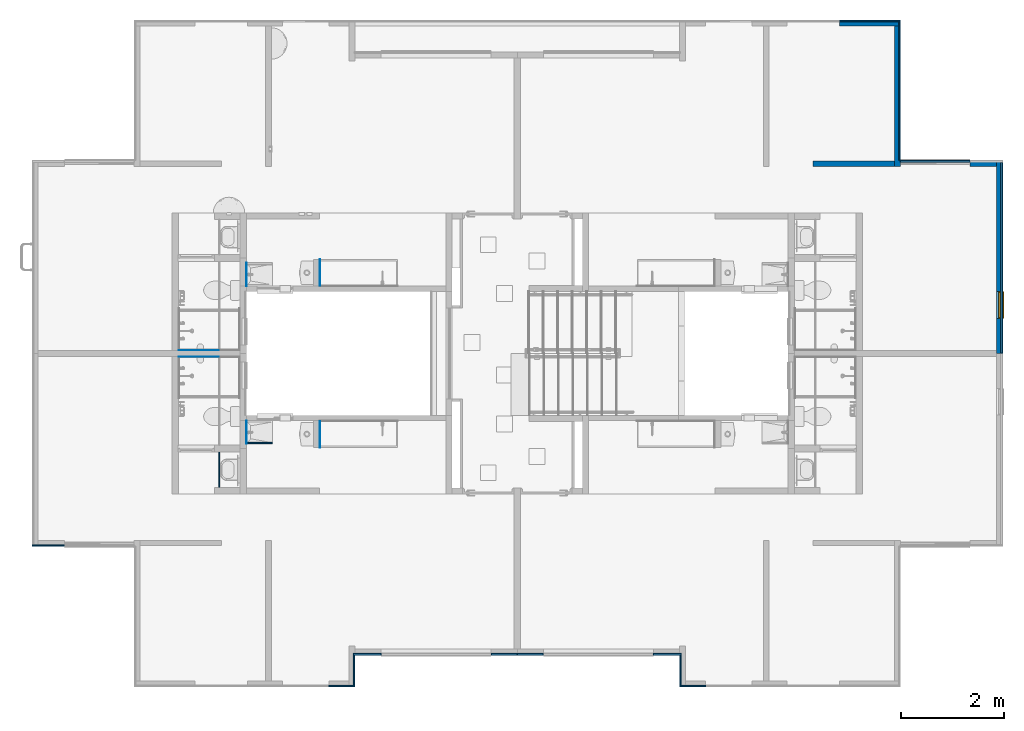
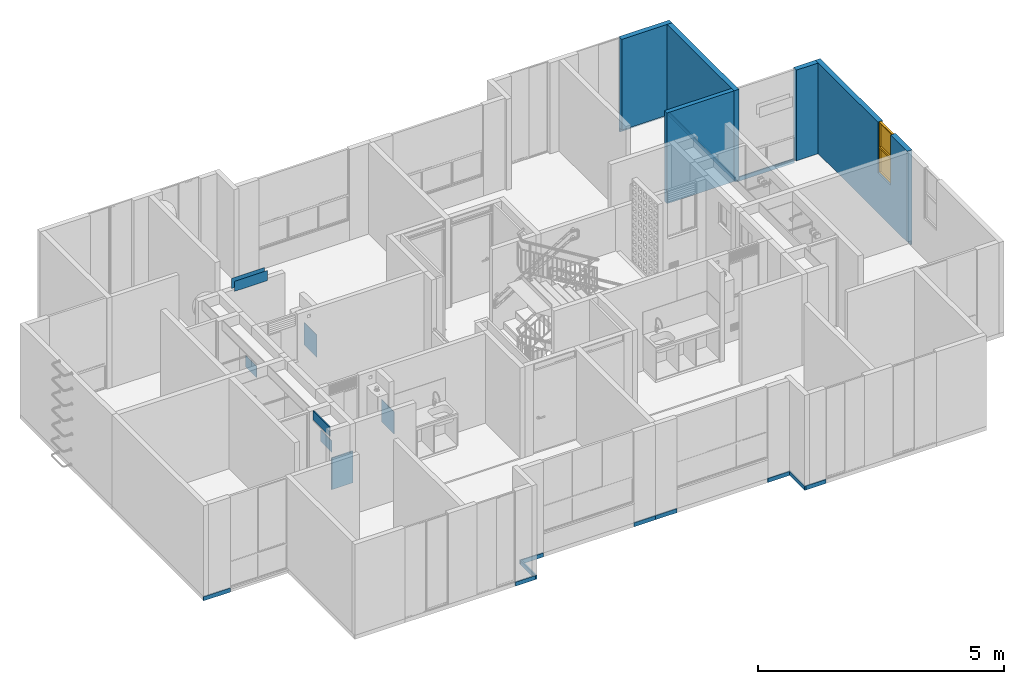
# One storey, part 28 of 51: 26 walls, 1 window, 1 opening.
"""IFC4 building model written with IfcOpenShell, lengths in metres."""

from ifc_helpers import new_model, entity, si_unit, converted_unit, derived_unit, direction, frame, origin, place, context, subcontext, project, spatial, indexed_curve, outline, extrude, polygons, source, transform, mapped, material, constituent, constituent_set, type_object, type_shapes, element, fill, save


model = new_model("IFC4")

# Units and contexts
model_context = context("Model", 3, precision=1e-05, world=origin(), true_north=direction((6.123031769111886e-17, 1.0)))
body_context = subcontext(model_context, "Body", "Model", "MODEL_VIEW")
ifc_project = project(units=[si_unit("LENGTHUNIT", "METRE"), si_unit("AREAUNIT", "SQUARE_METRE"), si_unit("VOLUMEUNIT", "CUBIC_METRE"), converted_unit("PLANEANGLEUNIT", "DEGREE", entity("IfcRatioMeasure", 0.017453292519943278), si_unit("PLANEANGLEUNIT", "RADIAN"), dimensions=[0, 0, 0, 0, 0, 0, 0]), si_unit("MASSUNIT", "GRAM", prefix="KILO"), derived_unit("MASSDENSITYUNIT", [(si_unit("MASSUNIT", "GRAM", prefix="KILO"), 1), (si_unit("LENGTHUNIT", "METRE"), -3)]), derived_unit("IONCONCENTRATIONUNIT", [(si_unit("MASSUNIT", "GRAM", prefix="KILO"), 1), (si_unit("LENGTHUNIT", "METRE"), -3)]), derived_unit("MOMENTOFINERTIAUNIT", [(si_unit("LENGTHUNIT", "METRE"), 4)]), si_unit("TIMEUNIT", "SECOND"), si_unit("FREQUENCYUNIT", "HERTZ"), si_unit("THERMODYNAMICTEMPERATUREUNIT", "DEGREE_CELSIUS"), derived_unit("THERMALTRANSMITTANCEUNIT", [(si_unit("MASSUNIT", "GRAM", prefix="KILO"), 1), (si_unit("THERMODYNAMICTEMPERATUREUNIT", "KELVIN"), -1), (si_unit("TIMEUNIT", "SECOND"), -3)]), derived_unit("THERMALCONDUCTANCEUNIT", [(si_unit("MASSUNIT", "GRAM", prefix="KILO"), 1), (si_unit("THERMODYNAMICTEMPERATUREUNIT", "KELVIN"), -1), (si_unit("TIMEUNIT", "SECOND"), -3), (si_unit("LENGTHUNIT", "METRE"), 1)]), derived_unit("VOLUMETRICFLOWRATEUNIT", [(si_unit("LENGTHUNIT", "METRE"), 3), (si_unit("TIMEUNIT", "SECOND"), -1)]), derived_unit("MASSFLOWRATEUNIT", [(si_unit("MASSUNIT", "GRAM", prefix="KILO"), 1), (si_unit("TIMEUNIT", "SECOND"), -1)]), derived_unit("ROTATIONALFREQUENCYUNIT", [(si_unit("TIMEUNIT", "SECOND"), -1)]), si_unit("ELECTRICCURRENTUNIT", "AMPERE"), si_unit("ELECTRICVOLTAGEUNIT", "VOLT"), si_unit("POWERUNIT", "WATT"), si_unit("FORCEUNIT", "NEWTON", prefix="KILO"), si_unit("ILLUMINANCEUNIT", "LUX"), si_unit("LUMINOUSFLUXUNIT", "LUMEN"), si_unit("LUMINOUSINTENSITYUNIT", "CANDELA"), derived_unit("USERDEFINED", [(si_unit("MASSUNIT", "GRAM", prefix="KILO"), -1), (si_unit("LENGTHUNIT", "METRE"), -2), (si_unit("TIMEUNIT", "SECOND"), 3), (si_unit("LUMINOUSFLUXUNIT", "LUMEN"), 1)]), derived_unit("USERDEFINED", [(si_unit("MASSUNIT", "GRAM", prefix="KILO"), 1), (si_unit("TIMEUNIT", "SECOND"), -3), (si_unit("LENGTHUNIT", "METRE"), 3), (si_unit("ELECTRICCURRENTUNIT", "AMPERE"), -2)]), derived_unit("SOUNDPOWERUNIT", [(si_unit("MASSUNIT", "GRAM", prefix="KILO"), 1), (si_unit("TIMEUNIT", "SECOND"), -3), (si_unit("LENGTHUNIT", "METRE"), 2)]), derived_unit("SOUNDPRESSUREUNIT", [(si_unit("MASSUNIT", "GRAM", prefix="KILO"), 1), (si_unit("LENGTHUNIT", "METRE"), -1), (si_unit("TIMEUNIT", "SECOND"), -2)]), derived_unit("LINEARVELOCITYUNIT", [(si_unit("LENGTHUNIT", "METRE"), 1), (si_unit("TIMEUNIT", "SECOND"), -1)]), si_unit("PRESSUREUNIT", "PASCAL"), derived_unit("USERDEFINED", [(si_unit("MASSUNIT", "GRAM", prefix="KILO"), 1), (si_unit("LENGTHUNIT", "METRE"), -2), (si_unit("TIMEUNIT", "SECOND"), -2)]), derived_unit("LINEARFORCEUNIT", [(si_unit("MASSUNIT", "GRAM", prefix="KILO"), 1), (si_unit("TIMEUNIT", "SECOND"), -2)]), derived_unit("PLANARFORCEUNIT", [(si_unit("MASSUNIT", "GRAM", prefix="KILO"), 1), (si_unit("LENGTHUNIT", "METRE"), -1), (si_unit("TIMEUNIT", "SECOND"), -2)]), derived_unit("SPECIFICHEATCAPACITYUNIT", [(si_unit("THERMODYNAMICTEMPERATUREUNIT", "KELVIN"), -1), (si_unit("LENGTHUNIT", "METRE"), 2), (si_unit("TIMEUNIT", "SECOND"), -2)]), derived_unit("HEATINGVALUEUNIT", [(si_unit("LENGTHUNIT", "METRE"), 2), (si_unit("TIMEUNIT", "SECOND"), -2)]), derived_unit("VAPORPERMEABILITYUNIT", [(si_unit("LENGTHUNIT", "METRE"), -1), (si_unit("TIMEUNIT", "SECOND"), 1)]), derived_unit("DYNAMICVISCOSITYUNIT", [(si_unit("MASSUNIT", "GRAM", prefix="KILO"), 1), (si_unit("TIMEUNIT", "SECOND"), -1), (si_unit("LENGTHUNIT", "METRE"), -1)]), derived_unit("THERMALEXPANSIONCOEFFICIENTUNIT", [(si_unit("THERMODYNAMICTEMPERATUREUNIT", "KELVIN"), -1)]), derived_unit("MODULUSOFELASTICITYUNIT", [(si_unit("MASSUNIT", "GRAM", prefix="KILO"), 1), (si_unit("LENGTHUNIT", "METRE"), -1), (si_unit("TIMEUNIT", "SECOND"), -2)]), derived_unit("ISOTHERMALMOISTURECAPACITYUNIT", [(si_unit("LENGTHUNIT", "METRE"), 3), (si_unit("MASSUNIT", "GRAM", prefix="KILO"), -1)]), derived_unit("MOISTUREDIFFUSIVITYUNIT", [(si_unit("TIMEUNIT", "SECOND"), -1), (si_unit("LENGTHUNIT", "METRE"), 2)])], contexts=[model_context])

# Site, building, storey
site_placement = place(None, origin())
site = spatial("IfcSite", under=ifc_project, at=site_placement, Name="Default", CompositionType="ELEMENT")
building_placement = place(site_placement, origin())
building = spatial("IfcBuilding", under=site, at=building_placement, CompositionType="ELEMENT")
storey_placement = place(building_placement, frame((0.0, 0.0, 2.350000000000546)))
storey = spatial("IfcBuildingStorey", under=building, at=storey_placement, Name="Nivel 2", CompositionType="ELEMENT", Elevation=2.350000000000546)

# Wall, opening, window
ifc_material_1 = material(Name="Ladrillo claro (Aire)", Category="Materials")
wall_type_1 = type_object("IfcWallType", Name="Basic Wall:B2010 - 0.115m - Muro exterior en mampostería - Ladrillo", PredefinedType="STANDARD")
wall_1_placement = place(storey_placement, frame((18.64500000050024, -2.695000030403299, 0.0), z_axis=(0.0, 0.0, 1.0), x_axis=(0.0, -1.0, 0.0)))
wall_1 = element("IfcWall", 1, at=wall_1_placement, inside=storey, type_object=wall_type_1, material=ifc_material_1, Name="Basic Wall:B2010 - 0.115m - Muro exterior en mampostería - Ladrillo", ObjectType="Basic Wall:B2010 - 0.115m - Muro exterior en mampostería - Ladrillo", PredefinedType="NOTDEFINED", context=body_context, shape_type="Tessellation", body=[
    polygons([(3.729999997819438, -0.05750000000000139, 2.2500000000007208), (3.056249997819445, -0.05749999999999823, 2.249999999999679), (3.056249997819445, -0.05749999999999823, 0.9999999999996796), (2.536249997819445, -0.057500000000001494, 0.9999999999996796), (2.536249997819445, -0.057500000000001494, 2.2500000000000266), (5.414335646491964e-16, -0.05749999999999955, 2.2500000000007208), (5.414335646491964e-16, -0.05749999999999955, 2.707167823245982e-16), (3.729999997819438, -0.05750000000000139, 2.707167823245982e-16), (3.0562499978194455, 0.05750000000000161, 0.9999999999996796), (3.0562499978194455, 0.05750000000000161, 2.249999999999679), (3.7299999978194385, 0.05750000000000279, 2.2500000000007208), (3.7299999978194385, 0.05750000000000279, 2.707167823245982e-16), (5.414335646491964e-16, 0.057500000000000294, 2.707167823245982e-16), (5.414335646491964e-16, 0.057500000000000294, 2.2500000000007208), (2.5362499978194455, 0.05750000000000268, 2.2500000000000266), (2.5362499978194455, 0.05750000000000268, 0.9999999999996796)], [[[1, 2, 3, 4, 5, 6, 7, 8]], [[9, 10, 11, 12, 13, 14, 15, 16]], [[8, 7, 13, 12]], [[1, 8, 12, 11]], [[11, 10, 2, 1]], [[7, 6, 14, 13]], [[5, 4, 16, 15]], [[3, 2, 10, 9]], [[4, 3, 9, 16]], [[15, 14, 6, 5]]], closed=True),
])
opening_placement = place(wall_1_placement, frame((2.5362499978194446, -0.057500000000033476, 1.0)))
opening = element("IfcOpeningElement", 2, at=opening_placement, cuts=wall_1, Name="B2020 - Ventana batiente - Aluminio + Vidrio:B2020 -0.52m x 1.1.25m - Ventana batiente 2C - Aluminio + Vidrio:1", PredefinedType="OPENING", context=body_context, shape_type="SweptSolid", body=[
    extrude(outline(indexed_curve([(0.0, -1.3535839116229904e-16), (1.2499999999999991, -1.3535839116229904e-16), (1.2499999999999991, 0.5199999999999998), (0.0, 0.5199999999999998), (0.0, -1.3535839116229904e-16)], self_intersect=False)), frame((0.0, 0.0, 0.0), z_axis=(0.0, 1.0, 0.0), x_axis=(0.0, 0.0, 1.0)), (0.0, 0.0, 1.0), 0.115),
])
ifc_material_2 = material(Name="Vidrio", Category="Materials")
ifc_constituent_1 = constituent(ifc_material_2, Name="Vidrio", Category="Materials")
ifc_material_3 = material(Name="Aluminio", Category="Materials")
ifc_constituent_2 = constituent(ifc_material_3, Name="Aluminio", Category="Materials")
ifc_material_4 = material(Name="<Unnamed>")
ifc_constituent_3 = constituent(ifc_material_4, Name="<Unnamed>")
ifc_constituent_set_1 = constituent_set(constituents=[ifc_constituent_1, ifc_constituent_2, ifc_constituent_3])
ifc_constituent_4 = constituent(ifc_material_2, Name="Vidrio", Category="Materials")
ifc_constituent_5 = constituent(ifc_material_3, Name="Aluminio", Category="Materials")
ifc_constituent_6 = constituent(ifc_material_4, Name="<Unnamed>")
ifc_constituent_set_2 = constituent_set(constituents=[ifc_constituent_4, ifc_constituent_5, ifc_constituent_6])
window_type = type_object("IfcWindowType", Name="B2020 - Ventana batiente - Aluminio + Vidrio:B2020 -0.52m x 1.1.25m - Ventana batiente 2C - Aluminio + Vidrio", PartitioningType="NOTDEFINED", PredefinedType="WINDOW", material=ifc_constituent_set_2)
shared_shape = source(origin(), body_context, "Body", "SweptSolid", [
    extrude(outline(indexed_curve([(-0.0020000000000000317, -0.2400000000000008), (0.0019999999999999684, -0.2400000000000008), (0.0020000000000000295, 0.2400000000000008), (-0.0019999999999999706, 0.2400000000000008), (-0.0020000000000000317, -0.2400000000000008)], self_intersect=False)), frame((0.26000000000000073, 0.07013901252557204, 0.01999999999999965), z_axis=(0.0, 0.0, 1.0), x_axis=(0.0, -1.0, 0.0)), (0.0, 0.0, 1.0), 0.585),
    extrude(outline(indexed_curve([(-0.3124999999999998, -0.2599999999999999), (0.3124999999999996, -0.2599999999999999), (0.3124999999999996, 0.2599999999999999), (-0.3124999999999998, 0.2599999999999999), (-0.3124999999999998, -0.2599999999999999)], self_intersect=False), holes=[indexed_curve([(0.2924999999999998, -0.24000000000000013), (-0.2925, -0.24000000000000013), (-0.2925, 0.24000000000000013), (0.2924999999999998, 0.24000000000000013), (0.2924999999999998, -0.24000000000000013)], self_intersect=False)]), frame((0.26000000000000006, 0.032499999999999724, 0.3124999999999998), z_axis=(0.0, 1.0, 0.0), x_axis=(0.0, 0.0, 1.0)), (0.0, 0.0, 1.0), 0.05),
    extrude(outline(indexed_curve([(-0.0020000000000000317, -0.2400000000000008), (0.0019999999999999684, -0.2400000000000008), (0.0020000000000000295, 0.2400000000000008), (-0.0019999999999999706, 0.2400000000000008), (-0.0020000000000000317, -0.2400000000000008)], self_intersect=False)), frame((0.25999999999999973, 0.07013901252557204, 0.6449999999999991), z_axis=(0.0, 0.0, 1.0), x_axis=(0.0, -1.0, 0.0)), (0.0, 0.0, 1.0), 0.585),
    extrude(outline(indexed_curve([(-0.3124999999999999, -0.2599999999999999), (0.3124999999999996, -0.2599999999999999), (0.3124999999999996, 0.25999999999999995), (-0.3124999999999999, 0.2599999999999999), (-0.3124999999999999, -0.2599999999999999)], self_intersect=False), holes=[indexed_curve([(0.2924999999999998, -0.24000000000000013), (-0.2925000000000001, -0.24000000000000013), (-0.2925000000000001, 0.24000000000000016), (0.2924999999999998, 0.24000000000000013), (0.2924999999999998, -0.24000000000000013)], self_intersect=False)]), frame((0.259999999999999, 0.032499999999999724, 0.9374999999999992), z_axis=(0.0, 1.0, 0.0), x_axis=(0.0, 0.0, 1.0)), (0.0, 0.0, 1.0), 0.05),
    extrude(outline(indexed_curve([(2.1899534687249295e-05, 0.0030283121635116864), (0.03002189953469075, 0.0030283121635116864), (0.030021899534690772, 0.008028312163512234), (-0.0013178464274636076, 0.00802831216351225), (-0.030623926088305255, -0.008891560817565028), (-0.02812392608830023, -0.013221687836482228), (2.1899534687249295e-05, 0.0030283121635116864)], self_intersect=False)), frame((0.0, 0.11346687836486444, -0.002611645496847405), z_axis=(1.0, 0.0, 0.0), x_axis=(0.0, 0.8660254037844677, -0.4999999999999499)), (0.0, 0.0, 1.0), 0.520000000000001),
])
type_shapes(window_type, [shared_shape])
window_placement = place(opening_placement, origin())
window = element("IfcWindow", 3, at=window_placement, inside=storey, type_object=window_type, material=ifc_constituent_set_1, Name="B2020 - Ventana batiente - Aluminio + Vidrio:B2020 -0.52m x 1.1.25m - Ventana batiente 2C - Aluminio + Vidrio", ObjectType="B2020 - Ventana batiente - Aluminio + Vidrio:B2020 -0.52m x 1.1.25m - Ventana batiente 2C - Aluminio + Vidrio", OverallHeight=1.2499999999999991, OverallWidth=0.5199999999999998, PartitioningType="NOTDEFINED", PredefinedType="WINDOW", context=body_context, shape_type="MappedRepresentation", body=[
    mapped(shared_shape, transform((0.0, 0.0, 0.0), scale=1.0)),
])
fill(opening, window)

# Walls
wall_2_placement = place(storey_placement, frame((16.670000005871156, -2.8100000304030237, 0.0), z_axis=(0.0, 0.0, 1.0), x_axis=(0.0, 1.0, 0.0)))
element("IfcWall", 4, at=wall_2_placement, inside=storey, type_object=wall_type_1, material=ifc_material_1, Name="Basic Wall:B2010 - 0.115m - Muro exterior en mampostería - Ladrillo", ObjectType="Basic Wall:B2010 - 0.115m - Muro exterior en mampostería - Ladrillo", PredefinedType="NOTDEFINED", context=body_context, shape_type="SweptSolid", body=[
    extrude(outline(indexed_curve([(2.7150000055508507, 0.057499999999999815), (1.0301981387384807e-16, 0.057499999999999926), (-1.0301981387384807e-16, -0.057499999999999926), (2.7150000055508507, -0.05750000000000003), (2.7150000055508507, 0.057499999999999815)], self_intersect=False)), origin(), (0.0, 0.0, 1.0), 2.2500000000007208),
])
ifc_material_5 = material(Name="LADRILLO CLARO", Category="Materials")
wall_type_2 = type_object("IfcWallType", Name="Basic Wall:B2010 - 0.115m - ME mampostería no estructural - Ladrillo", PredefinedType="STANDARD")
wall_3_placement = place(storey_placement, frame((18.58750000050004, -2.7525000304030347, 0.0), z_axis=(0.0, 0.0, 1.0), x_axis=(-1.0, 0.0, 0.0)))
element("IfcWall", 5, at=wall_3_placement, inside=storey, type_object=wall_type_2, material=ifc_material_5, Name="Basic Wall:B2010 - 0.115m - ME mampostería no estructural - Ladrillo", ObjectType="Basic Wall:B2010 - 0.115m - ME mampostería no estructural - Ladrillo", PredefinedType="NOTDEFINED", context=body_context, shape_type="SweptSolid", body=[
    extrude(outline(indexed_curve([(0.5099999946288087, 0.05749999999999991), (-1.8225877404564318e-16, 0.057499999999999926), (1.8225877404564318e-16, -0.057499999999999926), (0.5099999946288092, -0.05749999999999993), (0.5099999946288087, 0.05749999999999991)], self_intersect=False)), origin(), (0.0, 0.0, 1.0), 2.2500000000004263),
])
wall_4_placement = place(storey_placement, frame((15.553300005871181, -0.037500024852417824, 0.0)))
element("IfcWall", 6, at=wall_4_placement, inside=storey, type_object=wall_type_2, material=ifc_material_5, Name="Basic Wall:B2010 - 0.115m - ME mampostería no estructural - Ladrillo", ObjectType="Basic Wall:B2010 - 0.115m - ME mampostería no estructural - Ladrillo", PredefinedType="NOTDEFINED", context=body_context, shape_type="SweptSolid", body=[
    extrude(outline(indexed_curve([(1.174199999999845, 0.05749999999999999), (-6.892764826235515e-16, 0.0575), (6.892764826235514e-16, -0.05749999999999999), (1.1741999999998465, -0.05749999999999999), (1.174199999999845, 0.05749999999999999)], self_intersect=False)), origin(), (0.0, 0.0, 1.0), 2.2500000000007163),
])
ifc_material_6 = material(Name="Concreto (Aire)", Category="Materials")
wall_type_3 = type_object("IfcWallType", Name="Basic Wall:B2010 - 0.10m - Muro interior en concreto", PredefinedType="STANDARD")
wall_5_placement = place(storey_placement, frame((16.612500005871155, -2.7600000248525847, 0.0), z_axis=(0.0, 0.0, 1.0), x_axis=(-1.0, 0.0, 0.0)))
element("IfcWall", 7, at=wall_5_placement, inside=storey, type_object=wall_type_3, material=ifc_material_6, Name="Basic Wall:B2010 - 0.10m - Muro interior en concreto", ObjectType="Basic Wall:B2010 - 0.10m - Muro interior en concreto", PredefinedType="NOTDEFINED", context=body_context, shape_type="SweptSolid", body=[
    extrude(outline(indexed_curve([(1.569999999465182, 0.050000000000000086), (-1.0889063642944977e-15, 0.05), (-3.2425621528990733e-15, -0.05), (1.5699999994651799, -0.04999999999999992), (1.569999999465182, 0.050000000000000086)], self_intersect=False)), origin(), (0.0, 0.0, 1.0), 2.2499999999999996),
])
ifc_material_7 = material(Name="Plasterboard", Category="Materials")
wall_type_4 = type_object("IfcWallType", Name="Basic Wall:C1070 - 0.02m - Plafón - Drywall", PredefinedType="STANDARD")
wall_6_placement = place(storey_placement, frame((3.5624999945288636, -8.334999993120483, 2.020000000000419), z_axis=(0.0, 0.0, 1.0), x_axis=(0.0, -1.0, 0.0)))
element("IfcWall", 8, at=wall_6_placement, inside=storey, type_object=wall_type_4, material=ifc_material_7, Name="Basic Wall:C1070 - 0.02m - Plafón - Drywall", ObjectType="Basic Wall:C1070 - 0.02m - Plafón - Drywall", PredefinedType="NOTDEFINED", context=body_context, shape_type="SweptSolid", body=[
    extrude(outline(indexed_curve([(0.6800000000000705, 0.009999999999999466), (-1.45000261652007e-16, 0.009999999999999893), (1.45000261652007e-16, -0.009999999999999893), (0.6800000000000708, -0.01000000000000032), (0.6800000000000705, 0.009999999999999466)], self_intersect=False)), origin(), (0.0, 0.0, 1.0), 0.23000000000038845),
])
ifc_material_8 = material(Name="Ceramica Salpicadero 0.28m x 0.45m", Category="Materials")
wall_type_5 = type_object("IfcWallType", Name="Basic Wall:C2010 - 0.28 x 0.45 - Salpicadero - Cerámica", PredefinedType="STANDARD")
wall_7_placement = place(storey_placement, frame((4.092499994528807, -4.67500002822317, 0.929999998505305), z_axis=(0.0, 0.0, 1.0), x_axis=(0.0, -1.0, 0.0)))
element("IfcWall", 9, at=wall_7_placement, inside=storey, type_object=wall_type_5, material=ifc_material_8, Name="Basic Wall:C2010 - 0.28 x 0.45 - Salpicadero - Cerámica", ObjectType="Basic Wall:C2010 - 0.28 x 0.45 - Salpicadero - Cerámica", PredefinedType="NOTDEFINED", context=body_context, shape_type="SweptSolid", body=[
    extrude(outline(indexed_curve([(0.44949999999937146, 0.004999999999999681), (-8.738326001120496e-17, 0.004999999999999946), (8.738326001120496e-17, -0.004999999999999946), (0.4494999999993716, -0.005000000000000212), (0.44949999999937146, 0.004999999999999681)], self_intersect=False)), origin(), (0.0, 0.0, 1.0), 0.28000000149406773),
])
wall_8_placement = place(storey_placement, frame((4.092499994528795, -8.175000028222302, 0.929999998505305), z_axis=(0.0, 0.0, 1.0), x_axis=(0.0, 1.0, 0.0)))
element("IfcWall", 10, at=wall_8_placement, inside=storey, type_object=wall_type_5, material=ifc_material_8, Name="Basic Wall:C2010 - 0.28 x 0.45 - Salpicadero - Cerámica", ObjectType="Basic Wall:C2010 - 0.28 x 0.45 - Salpicadero - Cerámica", PredefinedType="NOTDEFINED", context=body_context, shape_type="SweptSolid", body=[
    extrude(outline(indexed_curve([(0.4494999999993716, 0.004999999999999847), (5.5314236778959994e-17, 0.004999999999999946), (-5.5314236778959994e-17, -0.004999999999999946), (0.44949999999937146, -0.005000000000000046), (0.4494999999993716, 0.004999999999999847)], self_intersect=False)), origin(), (0.0, 0.0, 1.0), 0.28000000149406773),
])
wall_9_placement = place(storey_placement, frame((5.507499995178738, -4.605000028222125, 0.9299999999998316), z_axis=(0.0, 0.0, 1.0), x_axis=(0.0, -1.0, 0.0)))
element("IfcWall", 11, at=wall_9_placement, inside=storey, type_object=wall_type_5, material=ifc_material_8, Name="Basic Wall:C2010 - 0.28 x 0.45 - Salpicadero - Cerámica", ObjectType="Basic Wall:C2010 - 0.28 x 0.45 - Salpicadero - Cerámica", PredefinedType="NOTDEFINED", context=body_context, shape_type="SweptSolid", body=[
    extrude(outline(indexed_curve([(0.5100000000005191, 0.005000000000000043), (-2.217940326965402e-17, 0.004999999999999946), (2.217940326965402e-17, -0.004999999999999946), (0.5100000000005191, -0.00499999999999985), (0.5100000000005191, 0.005000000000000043)], self_intersect=False)), origin(), (0.0, 0.0, 1.0), 0.5599999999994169),
])
wall_10_placement = place(storey_placement, frame((5.507499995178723, -8.245000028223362, 0.9299999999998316), z_axis=(0.0, 0.0, 1.0), x_axis=(0.0, 1.0, 0.0)))
element("IfcWall", 12, at=wall_10_placement, inside=storey, type_object=wall_type_5, material=ifc_material_8, Name="Basic Wall:C2010 - 0.28 x 0.45 - Salpicadero - Cerámica", ObjectType="Basic Wall:C2010 - 0.28 x 0.45 - Salpicadero - Cerámica", PredefinedType="NOTDEFINED", context=body_context, shape_type="SweptSolid", body=[
    extrude(outline(indexed_curve([(0.5100000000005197, 0.0049999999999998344), (-9.519164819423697e-18, 0.004999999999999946), (9.519164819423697e-18, -0.004999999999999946), (0.5100000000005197, -0.005000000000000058), (0.5100000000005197, 0.0049999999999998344)], self_intersect=False)), origin(), (0.0, 0.0, 1.0), 0.5599999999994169),
])
ifc_material_9 = material(Name="Estuco y pintura", Category="Materials")
ifc_constituent_7 = constituent(ifc_material_9, Name="Estuco y pintura", Category="Materials")
ifc_material_10 = material(Name="0 muro divisorio", Category="Materials")
ifc_constituent_8 = constituent(ifc_material_10, Name="0 muro divisorio", Category="Materials")
ifc_constituent_9 = constituent(ifc_material_9, Name="Estuco y pintura (2)", Category="Materials")
ifc_constituent_set_3 = constituent_set(constituents=[ifc_constituent_7, ifc_constituent_8, ifc_constituent_9], Name="Basic Wall:B2010 - 0.03m - Muro interior en estuco+pintura+ concreto+ estuco+ pintura")
wall_type_6 = type_object("IfcWallType", Name="Basic Wall:B2010 - 0.03m - Muro interior en estuco+pintura+ concreto+ estuco+ pintura", PredefinedType="STANDARD", material=ifc_constituent_set_3)
wall_11_placement = place(storey_placement, frame((4.087499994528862, -8.158000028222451, 0.0)))
element("IfcWall", 13, at=wall_11_placement, inside=storey, type_object=wall_type_6, material=ifc_constituent_set_3, Name="Basic Wall:B2010 - 0.03m - Muro interior en estuco+pintura+ concreto+ estuco+ pintura", ObjectType="Basic Wall:B2010 - 0.03m - Muro interior en estuco+pintura+ concreto+ estuco+ pintura", PredefinedType="NOTDEFINED", context=body_context, shape_type="SweptSolid", body=[
    extrude(outline(indexed_curve([(-0.0010000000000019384, -0.25000023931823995), (0.0009999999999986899, -0.25000023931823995), (0.0010000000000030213, 0.2500002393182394), (-0.000999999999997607, 0.2500002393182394), (-0.0010000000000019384, -0.25000023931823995)], self_intersect=False)), frame((0.2500002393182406, 0.016000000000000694, 0.0), z_axis=(0.0, 0.0, 1.0), x_axis=(0.0, -1.0, 0.0)), (0.0, 0.0, 1.0), 0.7799999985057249),
    extrude(outline(indexed_curve([(-0.0010000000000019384, -0.25000023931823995), (0.000999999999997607, -0.25000023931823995), (0.0010000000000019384, 0.2500002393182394), (-0.000999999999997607, 0.2500002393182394), (-0.0010000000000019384, -0.25000023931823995)], self_intersect=False)), frame((0.25000023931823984, -0.015999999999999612, 0.0), z_axis=(0.0, 0.0, 1.0), x_axis=(0.0, 1.0, 0.0)), (0.0, 0.0, 1.0), 0.7799999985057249),
    extrude(outline(indexed_curve([(-0.25000023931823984, -0.014999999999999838), (0.25000023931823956, -0.014999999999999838), (0.25000023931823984, 0.014999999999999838), (-0.25000023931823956, 0.014999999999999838), (-0.25000023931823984, -0.014999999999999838)], self_intersect=False)), frame((0.25000023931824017, 0.0, 0.0)), (0.0, 0.0, 1.0), 0.7799999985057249),
])
wall_type_7 = type_object("IfcWallType", Name="Basic Wall:B2010 - 0.03m - ME enchape  no estructural - Ladrillo", PredefinedType="STANDARD")
wall_12_placement = place(storey_placement, frame((9.322500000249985, -12.240000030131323, -0.10000000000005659), z_axis=(0.0, 0.0, 1.0), x_axis=(-1.0, 0.0, 0.0)))
element("IfcWall", 14, at=wall_12_placement, inside=storey, type_object=wall_type_7, material=ifc_material_5, Name="Basic Wall:B2010 - 0.03m - ME enchape  no estructural - Ladrillo", ObjectType="Basic Wall:B2010 - 0.03m - ME enchape  no estructural - Ladrillo", PredefinedType="NOTDEFINED", context=body_context, shape_type="SweptSolid", body=[
    extrude(outline(indexed_curve([(0.505, 0.015000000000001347), (5.1729321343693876e-17, 0.015000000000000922), (-5.1729321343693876e-17, -0.015000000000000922), (0.5049999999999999, -0.015000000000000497), (0.505, 0.015000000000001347)], self_intersect=False)), origin(), (0.0, 0.0, 1.0), 0.1),
])
wall_13_placement = place(storey_placement, frame((6.167499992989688, -12.255000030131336, -0.10000000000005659), z_axis=(0.0, 0.0, 1.0), x_axis=(0.0, -1.0, 0.0)))
element("IfcWall", 15, at=wall_13_placement, inside=storey, type_object=wall_type_7, material=ifc_material_5, Name="Basic Wall:B2010 - 0.03m - ME enchape  no estructural - Ladrillo", ObjectType="Basic Wall:B2010 - 0.03m - ME enchape  no estructural - Ladrillo", PredefinedType="NOTDEFINED", context=body_context, shape_type="SweptSolid", body=[
    extrude(outline(indexed_curve([(0.6150000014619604, 0.014999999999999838), (0.0, 0.014999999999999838), (0.0, -0.014999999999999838), (0.6150000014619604, -0.014999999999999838), (0.6150000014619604, 0.014999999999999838)], self_intersect=False)), origin(), (0.0, 0.0, 1.0), 0.1),
])
wall_14_placement = place(storey_placement, frame((6.152499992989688, -12.855000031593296, -0.10000000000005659), z_axis=(0.0, 0.0, 1.0), x_axis=(-1.0, 0.0, 0.0)))
element("IfcWall", 16, at=wall_14_placement, inside=storey, type_object=wall_type_7, material=ifc_material_5, Name="Basic Wall:B2010 - 0.03m - ME enchape  no estructural - Ladrillo", ObjectType="Basic Wall:B2010 - 0.03m - ME enchape  no estructural - Ladrillo", PredefinedType="NOTDEFINED", context=body_context, shape_type="SweptSolid", body=[
    extrude(outline(indexed_curve([(0.4700000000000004, 0.015000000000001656), (4.570130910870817e-17, 0.015000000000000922), (-4.570130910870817e-17, -0.015000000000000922), (0.4700000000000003, -0.015000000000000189), (0.4700000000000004, 0.015000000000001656)], self_intersect=False)), origin(), (0.0, 0.0, 1.0), 0.1),
])
wall_15_placement = place(storey_placement, frame((-0.057499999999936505, -10.140000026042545, -0.10000000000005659)))
element("IfcWall", 17, at=wall_15_placement, inside=storey, type_object=wall_type_7, material=ifc_material_5, Name="Basic Wall:B2010 - 0.03m - ME enchape  no estructural - Ladrillo", ObjectType="Basic Wall:B2010 - 0.03m - ME enchape  no estructural - Ladrillo", PredefinedType="NOTDEFINED", context=body_context, shape_type="SweptSolid", body=[
    extrude(outline(indexed_curve([(0.6249999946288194, 0.015000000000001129), (2.3382102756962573e-18, 0.015000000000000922), (-2.3382102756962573e-18, -0.015000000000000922), (0.6249999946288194, -0.015000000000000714), (0.6249999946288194, 0.015000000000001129)], self_intersect=False)), origin(), (0.0, 0.0, 1.0), 0.1),
])
wall_16_placement = place(storey_placement, frame((16.71250000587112, -0.010000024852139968, -0.10000000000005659), z_axis=(0.0, 0.0, 1.0), x_axis=(0.0, -1.0, 0.0)))
element("IfcWall", 18, at=wall_16_placement, inside=storey, type_object=wall_type_7, material=ifc_material_5, Name="Basic Wall:B2010 - 0.03m - ME enchape  no estructural - Ladrillo", ObjectType="Basic Wall:B2010 - 0.03m - ME enchape  no estructural - Ladrillo", PredefinedType="NOTDEFINED", context=body_context, shape_type="SweptSolid", body=[
    extrude(outline(indexed_curve([(2.683660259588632, 0.015000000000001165), (1.7027254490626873e-18, 0.015000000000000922), (-1.7027254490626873e-18, -0.015000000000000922), (2.683660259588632, -0.015000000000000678), (2.683660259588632, 0.015000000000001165)], self_intersect=False)), origin(), (0.0, 0.0, 1.0), 0.1),
])
wall_17_placement = place(storey_placement, frame((18.6875000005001, -2.725000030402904, -0.10000000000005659), z_axis=(0.0, 0.0, 1.0), x_axis=(0.0, -1.0, 0.0)))
element("IfcWall", 19, at=wall_17_placement, inside=storey, type_object=wall_type_7, material=ifc_material_5, Name="Basic Wall:B2010 - 0.03m - ME enchape  no estructural - Ladrillo", ObjectType="Basic Wall:B2010 - 0.03m - ME enchape  no estructural - Ladrillo", PredefinedType="NOTDEFINED", context=body_context, shape_type="SweptSolid", body=[
    extrude(outline(indexed_curve([(3.699999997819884, 0.015000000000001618), (-7.306011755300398e-17, 0.015000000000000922), (7.306011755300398e-17, -0.015000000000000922), (3.699999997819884, -0.015000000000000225), (3.699999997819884, 0.015000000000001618)], self_intersect=False)), origin(), (0.0, 0.0, 1.0), 0.1),
])
wall_18_placement = place(storey_placement, frame((9.322500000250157, -12.240000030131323, -0.10000000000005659)))
element("IfcWall", 20, at=wall_18_placement, inside=storey, type_object=wall_type_7, material=ifc_material_5, Name="Basic Wall:B2010 - 0.03m - ME enchape  no estructural - Ladrillo", ObjectType="Basic Wall:B2010 - 0.03m - ME enchape  no estructural - Ladrillo", PredefinedType="NOTDEFINED", context=body_context, shape_type="SweptSolid", body=[
    extrude(outline(indexed_curve([(0.5049999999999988, 0.015000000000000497), (-5.1729321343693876e-17, 0.015000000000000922), (5.1729321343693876e-17, -0.015000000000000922), (0.504999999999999, -0.015000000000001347), (0.5049999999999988, 0.015000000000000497)], self_intersect=False)), origin(), (0.0, 0.0, 1.0), 0.1),
])
wall_19_placement = place(storey_placement, frame((12.477500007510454, -12.255000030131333, -0.10000000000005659), z_axis=(0.0, 0.0, 1.0), x_axis=(0.0, -1.0, 0.0)))
element("IfcWall", 21, at=wall_19_placement, inside=storey, type_object=wall_type_7, material=ifc_material_5, Name="Basic Wall:B2010 - 0.03m - ME enchape  no estructural - Ladrillo", ObjectType="Basic Wall:B2010 - 0.03m - ME enchape  no estructural - Ladrillo", PredefinedType="NOTDEFINED", context=body_context, shape_type="SweptSolid", body=[
    extrude(outline(indexed_curve([(0.6150000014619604, 0.015000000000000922), (0.0, 0.015000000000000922), (0.0, -0.015000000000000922), (0.6150000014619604, -0.015000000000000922), (0.6150000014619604, 0.015000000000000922)], self_intersect=False)), origin(), (0.0, 0.0, 1.0), 0.1),
])
wall_20_placement = place(storey_placement, frame((12.492500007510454, -12.855000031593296, -0.10000000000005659)))
element("IfcWall", 22, at=wall_20_placement, inside=storey, type_object=wall_type_7, material=ifc_material_5, Name="Basic Wall:B2010 - 0.03m - ME enchape  no estructural - Ladrillo", ObjectType="Basic Wall:B2010 - 0.03m - ME enchape  no estructural - Ladrillo", PredefinedType="NOTDEFINED", context=body_context, shape_type="SweptSolid", body=[
    extrude(outline(indexed_curve([(0.4699999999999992, 0.015000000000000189), (-4.570130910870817e-17, 0.015000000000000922), (4.570130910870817e-17, -0.015000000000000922), (0.46999999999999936, -0.015000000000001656), (0.4699999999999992, 0.015000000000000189)], self_intersect=False)), origin(), (0.0, 0.0, 1.0), 0.1),
])
wall_21_placement = place(storey_placement, frame((15.552500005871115, 0.004999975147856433, -0.10000000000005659)))
element("IfcWall", 23, at=wall_21_placement, inside=storey, type_object=wall_type_7, material=ifc_material_5, Name="Basic Wall:B2010 - 0.03m - ME enchape  no estructural - Ladrillo", ObjectType="Basic Wall:B2010 - 0.03m - ME enchape  no estructural - Ladrillo", PredefinedType="NOTDEFINED", context=body_context, shape_type="SweptSolid", body=[
    extrude(outline(indexed_curve([(1.1750000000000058, 0.014999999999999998), (4.3864338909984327e-17, 0.015), (-4.3864338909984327e-17, -0.015), (1.1750000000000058, -0.015000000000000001), (1.1750000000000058, 0.014999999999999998)], self_intersect=False)), origin(), (0.0, 0.0, 1.0), 0.1),
])
wall_22_placement = place(storey_placement, frame((18.077500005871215, -2.7100000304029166, -0.10000000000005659), z_axis=(0.0, 0.0, 1.0), x_axis=(-1.0, 0.0, 0.0)))
element("IfcWall", 24, at=wall_22_placement, inside=storey, type_object=wall_type_7, material=ifc_material_5, Name="Basic Wall:B2010 - 0.03m - ME enchape  no estructural - Ladrillo", ObjectType="Basic Wall:B2010 - 0.03m - ME enchape  no estructural - Ladrillo", PredefinedType="NOTDEFINED", context=body_context, shape_type="SweptSolid", body=[
    extrude(outline(indexed_curve([(1.3500000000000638, 0.014999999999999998), (3.050576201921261e-16, 0.014999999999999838), (-3.050576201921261e-16, -0.014999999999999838), (1.3500000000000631, -0.01499999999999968), (1.3500000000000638, 0.014999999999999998)], self_intersect=False)), origin(), (0.0, 0.0, 1.0), 0.1),
])
wall_23_placement = place(storey_placement, frame((6.6924999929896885, -12.240000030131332, -0.10000000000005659), z_axis=(0.0, 0.0, 1.0), x_axis=(-1.0, 0.0, 0.0)))
element("IfcWall", 25, at=wall_23_placement, inside=storey, type_object=wall_type_7, material=ifc_material_5, Name="Basic Wall:B2010 - 0.03m - ME enchape  no estructural - Ladrillo", ObjectType="Basic Wall:B2010 - 0.03m - ME enchape  no estructural - Ladrillo", PredefinedType="NOTDEFINED", context=body_context, shape_type="SweptSolid", body=[
    extrude(outline(indexed_curve([(0.5399999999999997, 0.015000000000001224), (5.1729321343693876e-17, 0.015000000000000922), (-5.1729321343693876e-17, -0.015000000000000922), (0.5399999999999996, -0.015000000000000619), (0.5399999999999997, 0.015000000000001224)], self_intersect=False)), origin(), (0.0, 0.0, 1.0), 0.1),
])
wall_24_placement = place(storey_placement, frame((11.952500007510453, -12.240000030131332, -0.10000000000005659)))
element("IfcWall", 26, at=wall_24_placement, inside=storey, type_object=wall_type_7, material=ifc_material_5, Name="Basic Wall:B2010 - 0.03m - ME enchape  no estructural - Ladrillo", ObjectType="Basic Wall:B2010 - 0.03m - ME enchape  no estructural - Ladrillo", PredefinedType="NOTDEFINED", context=body_context, shape_type="SweptSolid", body=[
    extrude(outline(indexed_curve([(0.5400000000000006, 0.015000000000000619), (-5.1729321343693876e-17, 0.015000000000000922), (5.1729321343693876e-17, -0.015000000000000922), (0.5400000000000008, -0.015000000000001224), (0.5400000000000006, 0.015000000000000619)], self_intersect=False)), origin(), (0.0, 0.0, 1.0), 0.1),
])
ifc_material_11 = material(Name="Repello y pintura", Category="Materials")
wall_type_8 = type_object("IfcWallType", Name="Basic Wall:C2010 - 0.002m - MI acabado de muro- Estuco+ pintura", PredefinedType="STANDARD")
wall_25_placement = place(storey_placement, frame((2.7775010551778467, -6.364000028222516, 4.350000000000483)))
element("IfcWall", 27, at=wall_25_placement, inside=storey, type_object=wall_type_8, material=ifc_material_11, Name="Basic Wall:C2010 - 0.002m - MI acabado de muro- Estuco+ pintura", ObjectType="Basic Wall:C2010 - 0.002m - MI acabado de muro- Estuco+ pintura", PredefinedType="NOTDEFINED", context=body_context, shape_type="SweptSolid", body=[
    extrude(outline(indexed_curve([(0.7749989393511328, 0.0009999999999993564), (-3.654659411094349e-18, 0.0009999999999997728), (3.654659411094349e-18, -0.0009999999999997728), (0.7749989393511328, -0.0010000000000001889), (0.7749989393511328, 0.0009999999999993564)], self_intersect=False)), origin(), (0.0, 0.0, 1.0), 0.2500000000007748),
])
wall_26_placement = place(storey_placement, frame((2.7775010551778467, -6.486000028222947, 4.350000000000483)))
element("IfcWall", 28, at=wall_26_placement, inside=storey, type_object=wall_type_8, material=ifc_material_11, Name="Basic Wall:C2010 - 0.002m - MI acabado de muro- Estuco+ pintura", ObjectType="Basic Wall:C2010 - 0.002m - MI acabado de muro- Estuco+ pintura", PredefinedType="NOTDEFINED", context=body_context, shape_type="SweptSolid", body=[
    extrude(outline(indexed_curve([(0.7749989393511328, 0.0009999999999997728), (-2.7944996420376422e-18, 0.0009999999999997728), (2.7944996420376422e-18, -0.0009999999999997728), (0.7749989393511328, -0.0009999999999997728), (0.7749989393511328, 0.0009999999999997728)], self_intersect=False)), origin(), (0.0, 0.0, 1.0), 0.2500000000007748),
])

save(model, "model.ifc")
